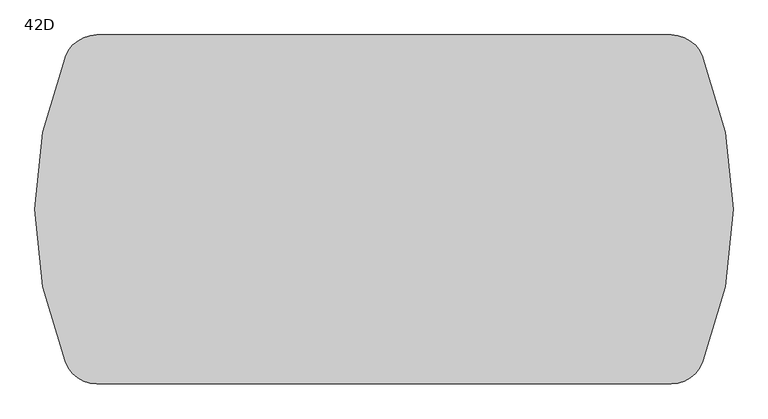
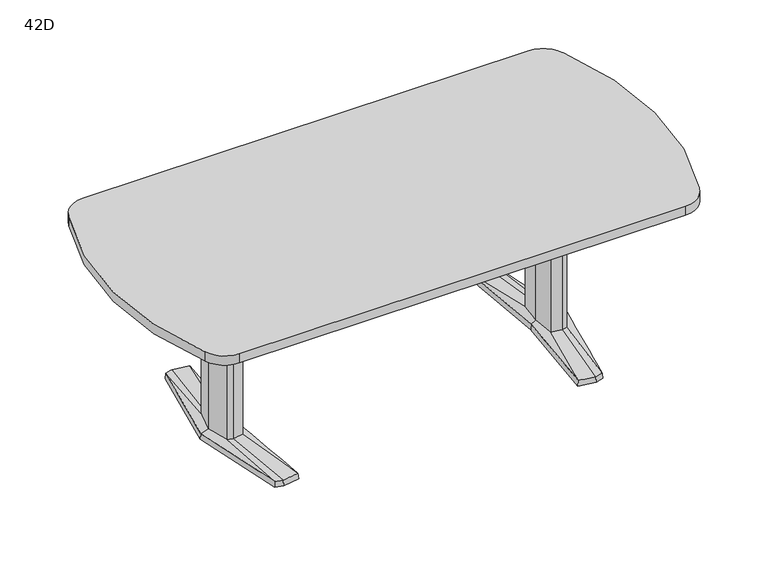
"""IFC4 building model written with IfcOpenShell, lengths in millimetres: furniture geometry, Coalesse_AM_Table_Conference_ETable2_SoftRadiused_84in_AluminiumBase : 42D."""

from ifc_helpers import new_model, si_unit, point, frame, frame_2d, origin, place, context, project, spatial, polyline, circle_curve, trimmed, segment, composite_curve, outline, extrude, source, transform, mapped, element, save
from ifc_brep_helpers import plane_surface, spline_surface, advanced_brep


def furniture_42d_2f060491(model_context):
    return source(origin(), model_context, "Body", "SolidModel", [
        advanced_brep(
        [(614.8503471, -379.3768856, 25.4), (644.5756636, -371.5332654, 25.4), (668.2327243, -89.293702, 36.5125), (648.9795254, -94.605478, 36.5125), (606.0521001, -87.0529327, 36.5125), (551.7612538, -368.5071562, 25.4), (597.9364207, 0.0, 36.5125), (579.8389754, 0.3970149, 25.4), (606.0521001, 87.0529327, 36.5125), (551.7615002, 368.5172593, 25.4), (648.9795254, 94.605478, 36.5125), (614.8502233, 379.3769183, 25.4), (668.2327243, 89.293702, 36.5125), (644.7535458, 371.4863276, 25.4), (692.1595251, 0.0, 36.5125), (721.4851663, 0.0003516, 25.4), (578.2468742, 0.3968871, 3.175), (550.06875, 369.8367279, 3.175), (614.9213004, 381.0, 3.175), (646.1093245, 372.7704151, 3.175), (723.10625, 0.0, 3.175), (645.9309817, -372.8174744, 3.175), (614.9213004, -381.0, 3.175), (550.06875, -369.8264415, 3.175), (649.5979264, 107.6121478, 3.175), (594.3065451, 97.8843184, 3.175), (585.1810887, 0.0, 3.175), (594.3065451, -97.8843184, 3.175), (649.5979264, -107.6121478, 3.175), (678.6183473, -99.6056872, 3.175), (705.3083085, 0.0, 3.175), (678.6183473, 99.6056872, 3.175), (613.4286812, 346.9152841, 3.175), (557.7811371, 337.3364985, 3.175), (560.1889918, 324.8641942, 3.175), (612.8600644, 333.9306305, 3.175), (648.6725609, 324.4807859, 3.175), (647.5544526, 337.9105158, 3.175), (613.4286812, -346.9152841, 3.175), (647.5544526, -337.9105158, 3.175), (648.6725609, -324.4807859, 3.175), (612.8600644, -333.9306305, 3.175), (560.1889918, -324.8641942, 3.175), (557.7811371, -337.3364985, 3.175), (649.5979264, 107.6121478, 0.0), (678.6183473, 99.6056872, 0.0), (705.3083085, 0.0, 0.0), (678.6183473, -99.6056872, 0.0), (649.5979264, -107.6121478, 0.0), (594.3065451, -97.8843184, 0.0), (585.1810887, 0.0, 0.0), (594.3065451, 97.8843184, 0.0), (613.4286812, 346.9152841, 0.0), (647.5544526, 337.9105158, 0.0), (648.6725609, 324.4807859, 0.0), (612.8600644, 333.9306305, 0.0), (560.1889918, 324.8641942, 0.0), (557.7811371, 337.3364985, 0.0), (613.4286812, -346.9152841, 0.0), (557.7811371, -337.3364985, 0.0), (560.1889918, -324.8641942, 0.0), (612.8600644, -333.9306305, 0.0), (648.6725609, -324.4807859, 0.0), (647.5544526, -337.9105158, 0.0), (668.2327243, 89.293702, 698.5), (648.9795254, 94.605478, 698.5), (606.0521001, 87.0529327, 698.5), (597.9364207, 0.0, 698.5), (606.0521001, -87.0529327, 698.5), (648.9795254, -94.605478, 698.5), (668.2327243, -89.293702, 698.5), (692.1595251, 0.0, 698.5)],
        [
            (0, 1),
            (1, 2),
            (2, 3),
            (3, 0),
            (3, 4),
            (4, 5),
            (5, 0),
            (4, 6),
            (6, 7),
            (7, 5),
            (6, 8),
            (8, 9),
            (9, 7),
            (8, 10),
            (10, 11),
            (11, 9),
            (10, 12),
            (12, 13),
            (13, 11),
            (12, 14),
            (14, 15),
            (15, 13),
            (1, 15),
            (14, 2),
            (16, 17),
            (17, 18),
            (18, 19),
            (19, 20),
            (20, 21),
            (21, 22),
            (22, 23),
            (23, 16),
            (24, 25),
            (25, 26),
            (26, 27),
            (27, 28),
            (28, 29),
            (29, 30),
            (30, 31),
            (31, 24),
            (32, 33),
            (33, 34),
            (34, 35),
            (35, 36),
            (36, 37),
            (37, 32),
            (38, 39),
            (39, 40),
            (40, 41),
            (41, 42),
            (42, 43),
            (43, 38),
            (16, 7),
            (9, 17),
            (11, 18),
            (13, 19),
            (15, 20),
            (1, 21),
            (0, 22),
            (5, 23),
            (44, 45),
            (45, 46),
            (46, 47),
            (47, 48),
            (48, 49),
            (49, 50),
            (50, 51),
            (51, 44),
            (52, 53),
            (53, 54),
            (54, 55),
            (55, 56),
            (56, 57),
            (57, 52),
            (58, 59),
            (59, 60),
            (60, 61),
            (61, 62),
            (62, 63),
            (63, 58),
            (44, 24),
            (31, 45),
            (30, 46),
            (29, 47),
            (28, 48),
            (27, 49),
            (26, 50),
            (25, 51),
            (52, 32),
            (37, 53),
            (36, 54),
            (35, 55),
            (34, 56),
            (33, 57),
            (58, 38),
            (43, 59),
            (42, 60),
            (41, 61),
            (40, 62),
            (39, 63),
            (64, 65),
            (65, 66),
            (66, 67),
            (67, 68),
            (68, 69),
            (69, 70),
            (70, 71),
            (71, 64),
            (71, 14),
            (12, 64),
            (70, 2),
            (69, 3),
            (68, 4),
            (67, 6),
            (66, 8),
            (65, 10),
        ],
        [
            spline_surface(1, 1, [[(644.5756636, -371.5332654, 25.4), (614.8503471, -379.3768856, 25.4)], [(668.2327243, -89.293702, 36.5125), (648.9795254, -94.605478, 36.5125)]], [2, 2], [2, 2], [0.0, 1.0], [0.0, 1.0]),
            spline_surface(1, 1, [[(614.8503471, -379.3768856, 25.4), (551.7612538, -368.5071562, 25.4)], [(648.9795254, -94.605478, 36.5125), (606.0521001, -87.0529327, 36.5125)]], [2, 2], [2, 2], [0.0, 1.0], [0.0, 1.0]),
            spline_surface(1, 1, [[(551.7612538, -368.5071562, 25.4), (579.8389754, 0.3970149, 25.4)], [(606.0521001, -87.0529327, 36.5125), (597.9364207, 0.0, 36.5125)]], [2, 2], [2, 2], [0.0, 1.0], [0.0, 1.0]),
            spline_surface(1, 1, [[(579.8389754, 0.3970149, 25.4), (551.7615002, 368.5172593, 25.4)], [(597.9364207, 0.0, 36.5125), (606.0521001, 87.0529327, 36.5125)]], [2, 2], [2, 2], [0.0, 1.0], [0.0, 1.0]),
            spline_surface(1, 1, [[(551.7615002, 368.5172593, 25.4), (614.8502233, 379.3769183, 25.4)], [(606.0521001, 87.0529327, 36.5125), (648.9795254, 94.605478, 36.5125)]], [2, 2], [2, 2], [0.0, 1.0], [0.0, 1.0]),
            spline_surface(1, 1, [[(614.8502233, 379.3769183, 25.4), (644.7535458, 371.4863276, 25.4)], [(648.9795254, 94.605478, 36.5125), (668.2327243, 89.293702, 36.5125)]], [2, 2], [2, 2], [0.0, 1.0], [0.0, 1.0]),
            spline_surface(1, 1, [[(644.7535458, 371.4863276, 25.4), (721.4851663, 0.0003516, 25.4)], [(668.2327243, 89.293702, 36.5125), (692.1595251, 0.0, 36.5125)]], [2, 2], [2, 2], [0.0, 1.0], [0.0, 1.0]),
            spline_surface(1, 1, [[(721.4851663, 0.0003516, 25.4), (644.5756636, -371.5332654, 25.4)], [(692.1595251, 0.0, 36.5125), (668.2327243, -89.293702, 36.5125)]], [2, 2], [2, 2], [0.0, 1.0], [0.0, 1.0]),
            plane_surface(frame((615.4216914, 0.0450143, 3.175), z_axis=(0.0, 0.0, -1.0), x_axis=(-0.9669048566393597, -0.2551372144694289, 0.0))),
            plane_surface(frame((564.1578121, 185.1168075, 3.175), z_axis=(-0.9945699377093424, -0.07585840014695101, 0.0712470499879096), x_axis=(-0.07605167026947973, 0.9971038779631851, 0.0))),
            plane_surface(frame((582.4950252, 375.418364, 3.175), z_axis=(-0.1692071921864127, 0.9830019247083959, 0.07124704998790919), x_axis=(0.985506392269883, 0.16963829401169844, 0.0))),
            plane_surface(frame((630.5153124, 376.8852076, 3.175), z_axis=(0.2544888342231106, 0.9644476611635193, 0.07124704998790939), x_axis=(0.9669048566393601, -0.25513721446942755, 0.0))),
            plane_surface(frame((684.6077872, 186.3852076, 3.175), z_axis=(0.9768383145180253, 0.2017690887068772, 0.07124704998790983), x_axis=(0.20228315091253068, -0.9793270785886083, 0.0))),
            plane_surface(frame((684.5186158, -186.4087372, 3.175), z_axis=(0.9767507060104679, -0.20219276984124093, 0.07124704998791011), x_axis=(-0.2027079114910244, -0.9792392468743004, 0.0))),
            plane_surface(frame((630.426141, -376.9087372, 3.175), z_axis=(0.2544888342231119, -0.9644476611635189, 0.0712470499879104), x_axis=(-0.9669048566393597, -0.2551372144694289, 0.0))),
            plane_surface(frame((582.4950252, -375.4132207, 3.175), z_axis=(-0.16935861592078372, -0.982975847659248, 0.07124704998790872), x_axis=(-0.9854802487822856, 0.16979010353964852, 0.0))),
            plane_surface(frame((564.1578121, -184.7147772, 3.175), z_axis=(-0.9945820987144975, 0.07569878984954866, 0.07124704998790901), x_axis=(0.07589165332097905, 0.9971160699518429, 0.0))),
            plane_surface(frame((652.3571479, 106.8509046, 0.0), z_axis=(0.0, 0.0, -1.0000000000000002), x_axis=(-0.9639855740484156, 0.26595453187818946, 0.0))),
            plane_surface(frame((649.5979264, 107.6121478, 3.175), z_axis=(0.26595453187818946, 0.9639855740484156, 0.0), x_axis=(0.0, 0.0, -1.0))),
            plane_surface(frame((678.6183473, 99.6056872, 3.175), z_axis=(0.9659241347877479, 0.2588253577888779, 0.0), x_axis=(0.0, 0.0, -1.0))),
            plane_surface(frame((705.3083085, 0.0, 3.175), z_axis=(0.9659241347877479, -0.2588253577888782, 0.0), x_axis=(0.0, 0.0, -1.0))),
            plane_surface(frame((678.6183473, -99.6056872, 3.175), z_axis=(0.26595453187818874, -0.9639855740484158, 0.0), x_axis=(0.0, 0.0, -1.0))),
            plane_surface(frame((649.5979264, -107.6121478, 3.175), z_axis=(-0.17327617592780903, -0.9848732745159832, 0.0), x_axis=(0.0, 0.0, -1.0))),
            plane_surface(frame((594.3065451, -97.8843184, 3.175), z_axis=(-0.9956824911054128, -0.0928244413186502, 0.0), x_axis=(0.0, 0.0, -1.0))),
            plane_surface(frame((585.1810887, 0.0, 3.175), z_axis=(-0.9956824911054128, 0.09282444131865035, 0.0), x_axis=(0.0, 0.0, -1.0))),
            plane_surface(frame((594.3065451, 97.8843184, 3.175), z_axis=(-0.17327617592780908, 0.984873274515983, 0.0), x_axis=(0.0, 0.0, -1.0))),
            plane_surface(frame((613.4286812, 346.9152841, 3.175), z_axis=(0.25513721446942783, 0.9669048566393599, 0.0), x_axis=(0.0, 0.0, -1.0))),
            plane_surface(frame((647.5544526, 337.9105158, 3.175), z_axis=(0.9965521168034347, 0.0829691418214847, 0.0), x_axis=(0.0, 0.0, -1.0))),
            plane_surface(frame((648.6725609, 324.4807859, 3.175), z_axis=(-0.25513721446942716, -0.9669048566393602, 0.0), x_axis=(0.0, 0.0, -1.0))),
            plane_surface(frame((612.8600644, 333.9306305, 3.175), z_axis=(0.16963829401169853, -0.985506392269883, 0.0), x_axis=(0.0, 0.0, -1.0))),
            plane_surface(frame((560.1889918, 324.8641942, 3.175), z_axis=(-0.9818699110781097, -0.18955600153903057, 0.0), x_axis=(0.0, 0.0, -1.0))),
            plane_surface(frame((557.7811371, 337.3364985, 3.175), z_axis=(-0.16963829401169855, 0.9855063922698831, 0.0), x_axis=(0.0, 0.0, -1.0))),
            plane_surface(frame((613.4286812, -346.9152841, 3.175), z_axis=(-0.1696382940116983, -0.9855063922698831, 0.0), x_axis=(0.0, 0.0, -1.0))),
            plane_surface(frame((557.7811371, -337.3364985, 3.175), z_axis=(-0.9818699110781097, 0.18955600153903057, 0.0), x_axis=(0.0, 0.0, -1.0))),
            plane_surface(frame((560.1889918, -324.8641942, 3.175), z_axis=(0.16963829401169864, 0.985506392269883, 0.0), x_axis=(0.0, 0.0, -1.0))),
            plane_surface(frame((612.8600644, -333.9306305, 3.175), z_axis=(-0.2551372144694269, 0.9669048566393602, 0.0), x_axis=(0.0, 0.0, -1.0))),
            plane_surface(frame((648.6725609, -324.4807859, 3.175), z_axis=(0.9965521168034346, -0.0829691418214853, 0.0), x_axis=(0.0, 0.0, -1.0))),
            plane_surface(frame((647.5544526, -337.9105158, 3.175), z_axis=(0.2551372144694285, -0.9669048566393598, 0.0), x_axis=(0.0, 0.0, -1.0))),
            plane_surface(frame((692.1595251, 0.0, 698.5), z_axis=(0.0, 0.0, 1.0), x_axis=(0.25882535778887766, -0.965924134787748, 0.0))),
            plane_surface(frame((668.2327243, 89.293702, 698.5), z_axis=(0.965924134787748, 0.25882535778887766, 0.0), x_axis=(0.0, 0.0, -1.0))),
            plane_surface(frame((692.1595251, 0.0, 698.5), z_axis=(0.965924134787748, -0.2588253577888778, 0.0), x_axis=(0.0, 0.0, -1.0))),
            plane_surface(frame((668.2327243, -89.293702, 698.5), z_axis=(0.2659545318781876, -0.963985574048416, 0.0), x_axis=(0.0, 0.0, -1.0))),
            plane_surface(frame((648.9795254, -94.605478, 698.5), z_axis=(-0.1732761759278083, -0.9848732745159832, 0.0), x_axis=(0.0, 0.0, -1.0))),
            plane_surface(frame((606.0521001, -87.0529327, 698.5), z_axis=(-0.9956824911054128, -0.0928244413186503, 0.0), x_axis=(0.0, 0.0, -1.0))),
            plane_surface(frame((597.9364207, 0.0, 698.5), z_axis=(-0.9956824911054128, 0.09282444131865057, 0.0), x_axis=(0.0, 0.0, -1.0))),
            plane_surface(frame((606.0521001, 87.0529327, 698.5), z_axis=(-0.17327617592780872, 0.9848732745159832, 0.0), x_axis=(0.0, 0.0, -1.0))),
            plane_surface(frame((648.9795254, 94.605478, 698.5), z_axis=(0.26595453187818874, 0.9639855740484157, 0.0), x_axis=(0.0, 0.0, -1.0))),
        ],
        [
            (0, [[1, 2, 3, 4]]),
            (1, [[5, 6, 7, -4]]),
            (2, [[8, 9, 10, -6]]),
            (3, [[11, 12, 13, -9]]),
            (4, [[14, 15, 16, -12]]),
            (5, [[17, 18, 19, -15]]),
            (6, [[20, 21, 22, -18]]),
            (7, [[23, -21, 24, -2]]),
            (8, [[25, 26, 27, 28, 29, 30, 31, 32], [33, 34, 35, 36, 37, 38, 39, 40], [41, 42, 43, 44, 45, 46], [47, 48, 49, 50, 51, 52]]),
            (9, [[53, -13, 54, -25]]),
            (10, [[-54, -16, 55, -26]]),
            (11, [[-55, -19, 56, -27]]),
            (12, [[-56, -22, 57, -28]]),
            (13, [[-57, -23, 58, -29]]),
            (14, [[-58, -1, 59, -30]]),
            (15, [[-59, -7, 60, -31]]),
            (16, [[-60, -10, -53, -32]]),
            (17, [[61, 62, 63, 64, 65, 66, 67, 68]]),
            (17, [[69, 70, 71, 72, 73, 74]]),
            (17, [[75, 76, 77, 78, 79, 80]]),
            (18, [[81, -40, 82, -61]]),
            (19, [[-82, -39, 83, -62]]),
            (20, [[-83, -38, 84, -63]]),
            (21, [[-84, -37, 85, -64]]),
            (22, [[-85, -36, 86, -65]]),
            (23, [[-86, -35, 87, -66]]),
            (24, [[-87, -34, 88, -67]]),
            (25, [[-88, -33, -81, -68]]),
            (26, [[89, -46, 90, -69]]),
            (27, [[-90, -45, 91, -70]]),
            (28, [[-91, -44, 92, -71]]),
            (29, [[-92, -43, 93, -72]]),
            (30, [[-93, -42, 94, -73]]),
            (31, [[-94, -41, -89, -74]]),
            (32, [[95, -52, 96, -75]]),
            (33, [[-96, -51, 97, -76]]),
            (34, [[-97, -50, 98, -77]]),
            (35, [[-98, -49, 99, -78]]),
            (36, [[-99, -48, 100, -79]]),
            (37, [[-100, -47, -95, -80]]),
            (38, [[101, 102, 103, 104, 105, 106, 107, 108]]),
            (39, [[109, -20, 110, -108]]),
            (40, [[111, -24, -109, -107]]),
            (41, [[112, -3, -111, -106]]),
            (42, [[113, -5, -112, -105]]),
            (43, [[114, -8, -113, -104]]),
            (44, [[115, -11, -114, -103]]),
            (45, [[116, -14, -115, -102]]),
            (46, [[-110, -17, -116, -101]]),
        ],
    ),
        advanced_brep(
        [(-614.8503471, -379.3768856, 25.4), (-648.9795254, -94.605478, 36.5125), (-668.2327243, -89.293702, 36.5125), (-644.5756636, -371.5332654, 25.4), (-551.7612538, -368.5071562, 25.4), (-606.0521001, -87.0529327, 36.5125), (-579.8389754, 0.3970149, 25.4), (-597.9364207, 0.0, 36.5125), (-551.7615002, 368.5172593, 25.4), (-606.0521001, 87.0529327, 36.5125), (-614.8502233, 379.3769183, 25.4), (-648.9795254, 94.605478, 36.5125), (-644.7535458, 371.4863276, 25.4), (-668.2327243, 89.293702, 36.5125), (-721.4851663, 0.0003516, 25.4), (-692.1595251, 0.0, 36.5125), (-578.2468742, 0.3968871, 3.175), (-550.06875, -369.8264415, 3.175), (-614.9213004, -381.0, 3.175), (-645.9309817, -372.8174744, 3.175), (-723.10625, 0.0, 3.175), (-646.1093245, 372.7704151, 3.175), (-614.9213004, 381.0, 3.175), (-550.06875, 369.8367279, 3.175), (-649.5979264, 107.6121478, 3.175), (-678.6183473, 99.6056872, 3.175), (-705.3083085, 0.0, 3.175), (-678.6183473, -99.6056872, 3.175), (-649.5979264, -107.6121478, 3.175), (-594.3065451, -97.8843184, 3.175), (-585.1810887, 0.0, 3.175), (-594.3065451, 97.8843184, 3.175), (-613.4286812, 346.9152841, 3.175), (-647.5544526, 337.9105158, 3.175), (-648.6725609, 324.4807859, 3.175), (-612.8600644, 333.9306305, 3.175), (-560.1889918, 324.8641942, 3.175), (-557.7811371, 337.3364985, 3.175), (-613.4286812, -346.9152841, 3.175), (-557.7811371, -337.3364985, 3.175), (-560.1889918, -324.8641942, 3.175), (-612.8600644, -333.9306305, 3.175), (-648.6725609, -324.4807859, 3.175), (-647.5544526, -337.9105158, 3.175), (-649.5979264, 107.6121478, 0.0), (-594.3065451, 97.8843184, 0.0), (-585.1810887, 0.0, 0.0), (-594.3065451, -97.8843184, 0.0), (-649.5979264, -107.6121478, 0.0), (-678.6183473, -99.6056872, 0.0), (-705.3083085, 0.0, 0.0), (-678.6183473, 99.6056872, 0.0), (-613.4286812, 346.9152841, 0.0), (-557.7811371, 337.3364985, 0.0), (-560.1889918, 324.8641942, 0.0), (-612.8600644, 333.9306305, 0.0), (-648.6725609, 324.4807859, 0.0), (-647.5544526, 337.9105158, 0.0), (-613.4286812, -346.9152841, 0.0), (-647.5544526, -337.9105158, 0.0), (-648.6725609, -324.4807859, 0.0), (-612.8600644, -333.9306305, 0.0), (-560.1889918, -324.8641942, 0.0), (-557.7811371, -337.3364985, 0.0), (-668.2327243, 89.293702, 698.5), (-692.1595251, 0.0, 698.5), (-668.2327243, -89.293702, 698.5), (-648.9795254, -94.605478, 698.5), (-606.0521001, -87.0529327, 698.5), (-597.9364207, 0.0, 698.5), (-606.0521001, 87.0529327, 698.5), (-648.9795254, 94.605478, 698.5)],
        [
            (0, 1),
            (1, 2),
            (2, 3),
            (3, 0),
            (0, 4),
            (4, 5),
            (5, 1),
            (4, 6),
            (6, 7),
            (7, 5),
            (6, 8),
            (8, 9),
            (9, 7),
            (8, 10),
            (10, 11),
            (11, 9),
            (10, 12),
            (12, 13),
            (13, 11),
            (12, 14),
            (14, 15),
            (15, 13),
            (2, 15),
            (14, 3),
            (16, 17),
            (17, 18),
            (18, 19),
            (19, 20),
            (20, 21),
            (21, 22),
            (22, 23),
            (23, 16),
            (24, 25),
            (25, 26),
            (26, 27),
            (27, 28),
            (28, 29),
            (29, 30),
            (30, 31),
            (31, 24),
            (32, 33),
            (33, 34),
            (34, 35),
            (35, 36),
            (36, 37),
            (37, 32),
            (38, 39),
            (39, 40),
            (40, 41),
            (41, 42),
            (42, 43),
            (43, 38),
            (23, 8),
            (6, 16),
            (22, 10),
            (21, 12),
            (20, 14),
            (19, 3),
            (18, 0),
            (17, 4),
            (44, 45),
            (45, 46),
            (46, 47),
            (47, 48),
            (48, 49),
            (49, 50),
            (50, 51),
            (51, 44),
            (52, 53),
            (53, 54),
            (54, 55),
            (55, 56),
            (56, 57),
            (57, 52),
            (58, 59),
            (59, 60),
            (60, 61),
            (61, 62),
            (62, 63),
            (63, 58),
            (51, 25),
            (24, 44),
            (50, 26),
            (49, 27),
            (48, 28),
            (47, 29),
            (46, 30),
            (45, 31),
            (57, 33),
            (32, 52),
            (56, 34),
            (55, 35),
            (54, 36),
            (53, 37),
            (63, 39),
            (38, 58),
            (62, 40),
            (61, 41),
            (60, 42),
            (59, 43),
            (64, 65),
            (65, 66),
            (66, 67),
            (67, 68),
            (68, 69),
            (69, 70),
            (70, 71),
            (71, 64),
            (64, 13),
            (15, 65),
            (2, 66),
            (1, 67),
            (5, 68),
            (7, 69),
            (9, 70),
            (11, 71),
        ],
        [
            spline_surface(1, 1, [[(-644.5756636, -371.5332654, 25.4), (-668.2327243, -89.293702, 36.5125)], [(-614.8503471, -379.3768856, 25.4), (-648.9795254, -94.605478, 36.5125)]], [2, 2], [2, 2], [0.0, 1.0], [0.0, 1.0]),
            spline_surface(1, 1, [[(-614.8503471, -379.3768856, 25.4), (-648.9795254, -94.605478, 36.5125)], [(-551.7612538, -368.5071562, 25.4), (-606.0521001, -87.0529327, 36.5125)]], [2, 2], [2, 2], [0.0, 1.0], [0.0, 1.0]),
            spline_surface(1, 1, [[(-551.7612538, -368.5071562, 25.4), (-606.0521001, -87.0529327, 36.5125)], [(-579.8389754, 0.3970149, 25.4), (-597.9364207, 0.0, 36.5125)]], [2, 2], [2, 2], [0.0, 1.0], [0.0, 1.0]),
            spline_surface(1, 1, [[(-579.8389754, 0.3970149, 25.4), (-597.9364207, 0.0, 36.5125)], [(-551.7615002, 368.5172593, 25.4), (-606.0521001, 87.0529327, 36.5125)]], [2, 2], [2, 2], [0.0, 1.0], [0.0, 1.0]),
            spline_surface(1, 1, [[(-551.7615002, 368.5172593, 25.4), (-606.0521001, 87.0529327, 36.5125)], [(-614.8502233, 379.3769183, 25.4), (-648.9795254, 94.605478, 36.5125)]], [2, 2], [2, 2], [0.0, 1.0], [0.0, 1.0]),
            spline_surface(1, 1, [[(-614.8502233, 379.3769183, 25.4), (-648.9795254, 94.605478, 36.5125)], [(-644.7535458, 371.4863276, 25.4), (-668.2327243, 89.293702, 36.5125)]], [2, 2], [2, 2], [0.0, 1.0], [0.0, 1.0]),
            spline_surface(1, 1, [[(-644.7535458, 371.4863276, 25.4), (-668.2327243, 89.293702, 36.5125)], [(-721.4851663, 0.0003516, 25.4), (-692.1595251, 0.0, 36.5125)]], [2, 2], [2, 2], [0.0, 1.0], [0.0, 1.0]),
            spline_surface(1, 1, [[(-721.4851663, 0.0003516, 25.4), (-692.1595251, 0.0, 36.5125)], [(-644.5756636, -371.5332654, 25.4), (-668.2327243, -89.293702, 36.5125)]], [2, 2], [2, 2], [0.0, 1.0], [0.0, 1.0]),
            plane_surface(frame((-615.4216914, 0.0450143, 3.175), z_axis=(0.0, 0.0, -1.0), x_axis=(0.9669048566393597, -0.2551372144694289, 0.0))),
            plane_surface(frame((-564.1578121, 185.1168075, 3.175), z_axis=(0.9945699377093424, -0.07585840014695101, 0.0712470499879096), x_axis=(0.07605167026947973, 0.9971038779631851, 0.0))),
            plane_surface(frame((-582.4950252, 375.418364, 3.175), z_axis=(0.1692071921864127, 0.9830019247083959, 0.07124704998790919), x_axis=(-0.985506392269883, 0.16963829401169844, 0.0))),
            plane_surface(frame((-630.5153124, 376.8852076, 3.175), z_axis=(-0.2544888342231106, 0.9644476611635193, 0.07124704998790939), x_axis=(-0.9669048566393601, -0.25513721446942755, 0.0))),
            plane_surface(frame((-684.6077872, 186.3852076, 3.175), z_axis=(-0.9768383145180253, 0.2017690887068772, 0.07124704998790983), x_axis=(-0.20228315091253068, -0.9793270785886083, 0.0))),
            plane_surface(frame((-684.5186158, -186.4087372, 3.175), z_axis=(-0.9767507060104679, -0.20219276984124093, 0.07124704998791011), x_axis=(0.2027079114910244, -0.9792392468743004, 0.0))),
            plane_surface(frame((-630.426141, -376.9087372, 3.175), z_axis=(-0.2544888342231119, -0.9644476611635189, 0.0712470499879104), x_axis=(0.9669048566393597, -0.2551372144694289, 0.0))),
            plane_surface(frame((-582.4950252, -375.4132207, 3.175), z_axis=(0.16935861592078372, -0.982975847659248, 0.07124704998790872), x_axis=(0.9854802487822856, 0.16979010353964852, 0.0))),
            plane_surface(frame((-564.1578121, -184.7147772, 3.175), z_axis=(0.9945820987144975, 0.07569878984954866, 0.07124704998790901), x_axis=(-0.07589165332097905, 0.9971160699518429, 0.0))),
            plane_surface(frame((-652.3571479, 106.8509046, 0.0), z_axis=(0.0, 0.0, -1.0000000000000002), x_axis=(0.9639855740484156, 0.26595453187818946, 0.0))),
            plane_surface(frame((-649.5979264, 107.6121478, 3.175), z_axis=(-0.26595453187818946, 0.9639855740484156, 0.0), x_axis=(0.0, 0.0, -1.0))),
            plane_surface(frame((-678.6183473, 99.6056872, 3.175), z_axis=(-0.9659241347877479, 0.2588253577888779, 0.0), x_axis=(0.0, 0.0, -1.0))),
            plane_surface(frame((-705.3083085, 0.0, 3.175), z_axis=(-0.9659241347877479, -0.2588253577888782, 0.0), x_axis=(0.0, 0.0, -1.0))),
            plane_surface(frame((-678.6183473, -99.6056872, 3.175), z_axis=(-0.26595453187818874, -0.9639855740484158, 0.0), x_axis=(0.0, 0.0, -1.0))),
            plane_surface(frame((-649.5979264, -107.6121478, 3.175), z_axis=(0.17327617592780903, -0.9848732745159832, 0.0), x_axis=(0.0, 0.0, -1.0))),
            plane_surface(frame((-594.3065451, -97.8843184, 3.175), z_axis=(0.9956824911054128, -0.0928244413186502, 0.0), x_axis=(0.0, 0.0, -1.0))),
            plane_surface(frame((-585.1810887, 0.0, 3.175), z_axis=(0.9956824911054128, 0.09282444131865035, 0.0), x_axis=(0.0, 0.0, -1.0))),
            plane_surface(frame((-594.3065451, 97.8843184, 3.175), z_axis=(0.17327617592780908, 0.984873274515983, 0.0), x_axis=(0.0, 0.0, -1.0))),
            plane_surface(frame((-613.4286812, 346.9152841, 3.175), z_axis=(-0.25513721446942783, 0.9669048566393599, 0.0), x_axis=(0.0, 0.0, -1.0))),
            plane_surface(frame((-647.5544526, 337.9105158, 3.175), z_axis=(-0.9965521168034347, 0.0829691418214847, 0.0), x_axis=(0.0, 0.0, -1.0))),
            plane_surface(frame((-648.6725609, 324.4807859, 3.175), z_axis=(0.25513721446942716, -0.9669048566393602, 0.0), x_axis=(0.0, 0.0, -1.0))),
            plane_surface(frame((-612.8600644, 333.9306305, 3.175), z_axis=(-0.16963829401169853, -0.985506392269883, 0.0), x_axis=(0.0, 0.0, -1.0))),
            plane_surface(frame((-560.1889918, 324.8641942, 3.175), z_axis=(0.9818699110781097, -0.18955600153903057, 0.0), x_axis=(0.0, 0.0, -1.0))),
            plane_surface(frame((-557.7811371, 337.3364985, 3.175), z_axis=(0.16963829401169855, 0.9855063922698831, 0.0), x_axis=(0.0, 0.0, -1.0))),
            plane_surface(frame((-613.4286812, -346.9152841, 3.175), z_axis=(0.1696382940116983, -0.9855063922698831, 0.0), x_axis=(0.0, 0.0, -1.0))),
            plane_surface(frame((-557.7811371, -337.3364985, 3.175), z_axis=(0.9818699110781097, 0.18955600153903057, 0.0), x_axis=(0.0, 0.0, -1.0))),
            plane_surface(frame((-560.1889918, -324.8641942, 3.175), z_axis=(-0.16963829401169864, 0.985506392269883, 0.0), x_axis=(0.0, 0.0, -1.0))),
            plane_surface(frame((-612.8600644, -333.9306305, 3.175), z_axis=(0.2551372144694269, 0.9669048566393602, 0.0), x_axis=(0.0, 0.0, -1.0))),
            plane_surface(frame((-648.6725609, -324.4807859, 3.175), z_axis=(-0.9965521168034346, -0.0829691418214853, 0.0), x_axis=(0.0, 0.0, -1.0))),
            plane_surface(frame((-647.5544526, -337.9105158, 3.175), z_axis=(-0.2551372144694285, -0.9669048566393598, 0.0), x_axis=(0.0, 0.0, -1.0))),
            plane_surface(frame((-692.1595251, 0.0, 698.5), z_axis=(0.0, 0.0, 1.0), x_axis=(-0.25882535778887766, -0.965924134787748, 0.0))),
            plane_surface(frame((-668.2327243, 89.293702, 698.5), z_axis=(-0.965924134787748, 0.25882535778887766, 0.0), x_axis=(0.0, 0.0, -1.0))),
            plane_surface(frame((-692.1595251, 0.0, 698.5), z_axis=(-0.965924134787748, -0.2588253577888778, 0.0), x_axis=(0.0, 0.0, -1.0))),
            plane_surface(frame((-668.2327243, -89.293702, 698.5), z_axis=(-0.2659545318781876, -0.963985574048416, 0.0), x_axis=(0.0, 0.0, -1.0))),
            plane_surface(frame((-648.9795254, -94.605478, 698.5), z_axis=(0.1732761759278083, -0.9848732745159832, 0.0), x_axis=(0.0, 0.0, -1.0))),
            plane_surface(frame((-606.0521001, -87.0529327, 698.5), z_axis=(0.9956824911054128, -0.0928244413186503, 0.0), x_axis=(0.0, 0.0, -1.0))),
            plane_surface(frame((-597.9364207, 0.0, 698.5), z_axis=(0.9956824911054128, 0.09282444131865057, 0.0), x_axis=(0.0, 0.0, -1.0))),
            plane_surface(frame((-606.0521001, 87.0529327, 698.5), z_axis=(0.17327617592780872, 0.9848732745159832, 0.0), x_axis=(0.0, 0.0, -1.0))),
            plane_surface(frame((-648.9795254, 94.605478, 698.5), z_axis=(-0.26595453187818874, 0.9639855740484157, 0.0), x_axis=(0.0, 0.0, -1.0))),
        ],
        [
            (0, [[1, 2, 3, 4]]),
            (1, [[-1, 5, 6, 7]]),
            (2, [[-6, 8, 9, 10]]),
            (3, [[-9, 11, 12, 13]]),
            (4, [[-12, 14, 15, 16]]),
            (5, [[-15, 17, 18, 19]]),
            (6, [[-18, 20, 21, 22]]),
            (7, [[-3, 23, -21, 24]]),
            (8, [[25, 26, 27, 28, 29, 30, 31, 32], [33, 34, 35, 36, 37, 38, 39, 40], [41, 42, 43, 44, 45, 46], [47, 48, 49, 50, 51, 52]]),
            (9, [[-32, 53, -11, 54]]),
            (10, [[-31, 55, -14, -53]]),
            (11, [[-30, 56, -17, -55]]),
            (12, [[-29, 57, -20, -56]]),
            (13, [[-28, 58, -24, -57]]),
            (14, [[-27, 59, -4, -58]]),
            (15, [[-26, 60, -5, -59]]),
            (16, [[-25, -54, -8, -60]]),
            (17, [[61, 62, 63, 64, 65, 66, 67, 68]]),
            (17, [[69, 70, 71, 72, 73, 74]]),
            (17, [[75, 76, 77, 78, 79, 80]]),
            (18, [[-68, 81, -33, 82]]),
            (19, [[-67, 83, -34, -81]]),
            (20, [[-66, 84, -35, -83]]),
            (21, [[-65, 85, -36, -84]]),
            (22, [[-64, 86, -37, -85]]),
            (23, [[-63, 87, -38, -86]]),
            (24, [[-62, 88, -39, -87]]),
            (25, [[-61, -82, -40, -88]]),
            (26, [[-74, 89, -41, 90]]),
            (27, [[-73, 91, -42, -89]]),
            (28, [[-72, 92, -43, -91]]),
            (29, [[-71, 93, -44, -92]]),
            (30, [[-70, 94, -45, -93]]),
            (31, [[-69, -90, -46, -94]]),
            (32, [[-80, 95, -47, 96]]),
            (33, [[-79, 97, -48, -95]]),
            (34, [[-78, 98, -49, -97]]),
            (35, [[-77, 99, -50, -98]]),
            (36, [[-76, 100, -51, -99]]),
            (37, [[-75, -96, -52, -100]]),
            (38, [[101, 102, 103, 104, 105, 106, 107, 108]]),
            (39, [[-101, 109, -22, 110]]),
            (40, [[-102, -110, -23, 111]]),
            (41, [[-103, -111, -2, 112]]),
            (42, [[-104, -112, -7, 113]]),
            (43, [[-105, -113, -10, 114]]),
            (44, [[-106, -114, -13, 115]]),
            (45, [[-107, -115, -16, 116]]),
            (46, [[-108, -116, -19, -109]]),
        ],
    ),
        extrude(outline(polyline([(96.8375, 698.5), (103.1875, 698.5), (103.1875, 476.25), (-103.1875, 476.25), (-103.1875, 698.5), (-96.8375, 698.5), (-96.8375, 482.6), (96.8375, 482.6), (96.8375, 698.5)])), frame((-597.9364207, 0.0, 0.0), z_axis=(1.0, 0.0, 0.0), x_axis=(0.0, 1.0, 0.0)), (0.0, 0.0, 1.0), 1195.8728415),
        extrude(outline(composite_curve([segment(polyline([(-973.4457112, -465.6652296), (-974.2015465, -463.5273037)]), True, "CONTINUOUS"), segment(trimmed(circle_curve(frame_2d((139.6631869, 0.0013115)), 1206.4631869), [point((-974.2015465, -463.5273037))], [point((-974.1956256, 463.5441544))], False, "CARTESIAN"), True, "CONTINUOUS"), segment(polyline([(-974.1956256, 463.5441544), (-973.4453442, 465.6662966)]), True, "CONTINUOUS"), segment(trimmed(circle_curve(frame_2d((-877.6558148, 431.8)), 101.6), [point((-973.4453442, 465.6662966))], [point((-877.6558148, 533.4))], False, "CARTESIAN"), True, "CONTINUOUS"), segment(polyline([(-877.6558148, 533.4), (877.6557872, 533.4)]), True, "CONTINUOUS"), segment(trimmed(circle_curve(frame_2d((877.6557872, 431.7999756)), 101.6000244), [point((877.6557872, 533.4))], [point((973.4457112, 465.6652296))], False, "CARTESIAN"), True, "CONTINUOUS"), segment(polyline([(973.4457112, 465.6652296), (974.2015465, 463.5298232)]), True, "CONTINUOUS"), segment(trimmed(circle_curve(frame_2d((-139.6694929, -5.18e-05)), 1206.4694929), [point((974.2015465, 463.5298232))], [point((974.1956256, -463.5441544))], False, "CARTESIAN"), True, "CONTINUOUS"), segment(polyline([(974.1956256, -463.5441544), (973.4453442, -465.6662966)]), True, "CONTINUOUS"), segment(trimmed(circle_curve(frame_2d((877.6558148, -431.8)), 101.6), [point((973.4453442, -465.6662966))], [point((877.6558148, -533.4))], False, "CARTESIAN"), True, "CONTINUOUS"), segment(polyline([(877.6558148, -533.4), (-877.6557872, -533.4)]), True, "CONTINUOUS"), segment(trimmed(circle_curve(frame_2d((-877.6557872, -431.7999756)), 101.6000244), [point((-877.6557872, -533.4))], [point((-973.4457112, -465.6652296))], False, "CARTESIAN"), True, "CONTINUOUS")], self_intersect=False)), frame((0.0, 0.0, 698.5), z_axis=(0.0, 0.0, 1.0), x_axis=(1.0, 0.0, 0.0)), (0.0, 0.0, 1.0), 38.1),
    ])


if __name__ == "__main__":
    model = new_model("IFC4")
    model_context = context("Model", 3, world=origin())
    ifc_project = project(units=[si_unit("LENGTHUNIT", "METRE", prefix="MILLI")], contexts=[model_context])
    site = spatial("IfcSite", under=ifc_project)
    building = spatial("IfcBuilding", under=site)
    placement = place(None, origin())
    furniture_42d_shape = furniture_42d_2f060491(model_context)
    element("IfcFurniture", 1, ObjectType="Coalesse_AM_Table_Conference_ETable2_SoftRadiused_84in_AluminiumBase : 42D", at=placement, inside=building, context=model_context, shape_type="MappedRepresentation", body=[
        mapped(furniture_42d_shape, transform((0.0, 0.0, 0.0), x_axis=(1.0, 0.0, 0.0), y_axis=(0.0, 1.0, 0.0), z_axis=(0.0, 0.0, 1.0))),
    ])
    save(model, "model.ifc")
